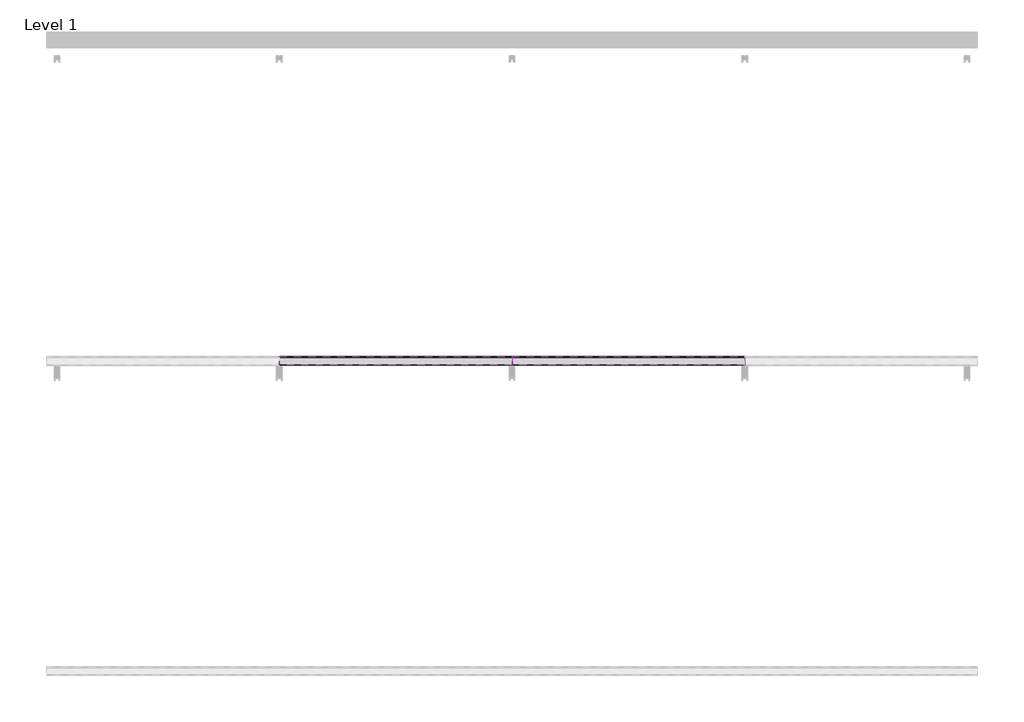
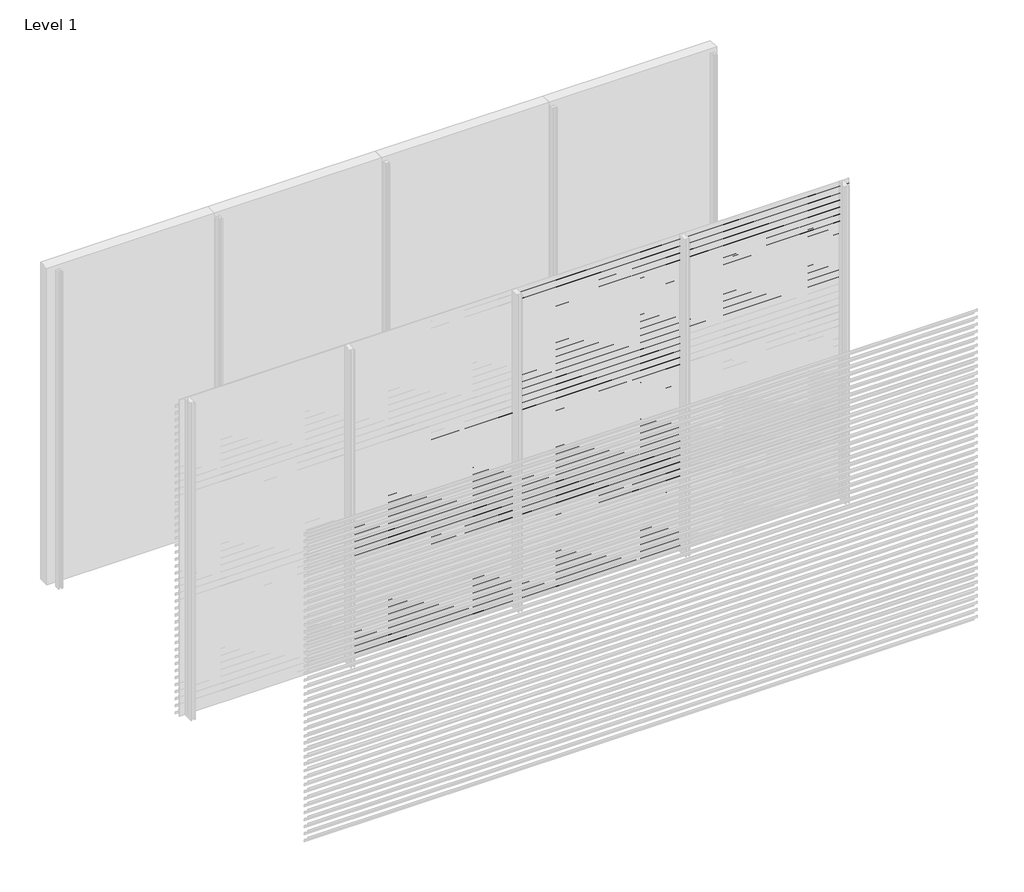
# One storey, part 17 of 25: 87 proxies.
"""IFC4 building model written with IfcOpenShell, lengths in millimetres."""

from ifc_helpers import new_model, si_unit, frame, origin, place, context, project, spatial, polyline, outline, extrude, element, save

model = new_model("IFC4")

# Units and contexts
model_context = context("Model", 3, world=origin())
ifc_project = project(units=[si_unit("LENGTHUNIT", "METRE", prefix="MILLI")], contexts=[model_context])

# Site, building, storey
site = spatial("IfcSite", under=ifc_project)
building = spatial("IfcBuilding", under=site)
storey = spatial("IfcBuildingStorey", under=building, Name="Level 1", Elevation=0.0)

# Proxies
placement = place(None, origin())
element("IfcBuildingElementProxy", 1, Name="Wall Sweeps", at=placement, inside=storey, context=model_context, shape_type="SweptSolid", body=[
    extrude(outline(polyline([(-17943.0, 1791.5), (-17943.0, 1771.5), (-17944.25, 1772.2216933), (-17944.25, 1790.7872415), (-17998.0, 1828.3158044), (-17998.0, 1848.0), (-17996.75, 1848.0), (-17996.75, 1829.0285629), (-17943.0, 1791.5)])), frame((1500.0, 0.0, 0.0), z_axis=(1.0, 0.0, 0.0), x_axis=(0.0, 1.0, 0.0)), (0.0, 0.0, 1.0), 1500.0),
])
element("IfcBuildingElementProxy", 2, Name="Wall Sweeps", at=placement, inside=storey, context=model_context, shape_type="SweptSolid", body=[
    extrude(outline(polyline([(-17943.0, 1725.5), (-17943.0, 1705.5), (-17944.25, 1706.2216933), (-17944.25, 1724.7872415), (-17998.0, 1762.3158044), (-17998.0, 1782.0), (-17996.75, 1782.0), (-17996.75, 1763.0285629), (-17943.0, 1725.5)])), frame((1500.0, 0.0, 0.0), z_axis=(1.0, 0.0, 0.0), x_axis=(0.0, 1.0, 0.0)), (0.0, 0.0, 1.0), 1500.0),
])
element("IfcBuildingElementProxy", 3, Name="Wall Sweeps", at=placement, inside=storey, context=model_context, shape_type="SweptSolid", body=[
    extrude(outline(polyline([(-17943.0, 1659.5), (-17943.0, 1639.5), (-17944.25, 1640.2216933), (-17944.25, 1658.7872415), (-17998.0, 1696.3158044), (-17998.0, 1716.0), (-17996.75, 1716.0), (-17996.75, 1697.0285629), (-17943.0, 1659.5)])), frame((1500.0, 0.0, 0.0), z_axis=(1.0, 0.0, 0.0), x_axis=(0.0, 1.0, 0.0)), (0.0, 0.0, 1.0), 1500.0),
])
element("IfcBuildingElementProxy", 4, Name="Wall Sweeps", at=placement, inside=storey, context=model_context, shape_type="SweptSolid", body=[
    extrude(outline(polyline([(-17943.0, 1593.5), (-17943.0, 1573.5), (-17944.25, 1574.2216933), (-17944.25, 1592.7872415), (-17998.0, 1630.3158044), (-17998.0, 1650.0), (-17996.75, 1650.0), (-17996.75, 1631.0285629), (-17943.0, 1593.5)])), frame((1500.0, 0.0, 0.0), z_axis=(1.0, 0.0, 0.0), x_axis=(0.0, 1.0, 0.0)), (0.0, 0.0, 1.0), 1500.0),
])
element("IfcBuildingElementProxy", 5, Name="Wall Sweeps", at=placement, inside=storey, context=model_context, shape_type="SweptSolid", body=[
    extrude(outline(polyline([(-17943.0, 1527.5), (-17943.0, 1507.5), (-17944.25, 1508.2216933), (-17944.25, 1526.7872415), (-17998.0, 1564.3158044), (-17998.0, 1584.0), (-17996.75, 1584.0), (-17996.75, 1565.0285629), (-17943.0, 1527.5)])), frame((1500.0, 0.0, 0.0), z_axis=(1.0, 0.0, 0.0), x_axis=(0.0, 1.0, 0.0)), (0.0, 0.0, 1.0), 1500.0),
])
element("IfcBuildingElementProxy", 6, Name="Wall Sweeps", at=placement, inside=storey, context=model_context, shape_type="SweptSolid", body=[
    extrude(outline(polyline([(-17943.0, 1461.5), (-17943.0, 1441.5), (-17944.25, 1442.2216933), (-17944.25, 1460.7872415), (-17998.0, 1498.3158044), (-17998.0, 1518.0), (-17996.75, 1518.0), (-17996.75, 1499.0285629), (-17943.0, 1461.5)])), frame((1500.0, 0.0, 0.0), z_axis=(1.0, 0.0, 0.0), x_axis=(0.0, 1.0, 0.0)), (0.0, 0.0, 1.0), 1500.0),
])
element("IfcBuildingElementProxy", 7, Name="Wall Sweeps", at=placement, inside=storey, context=model_context, shape_type="SweptSolid", body=[
    extrude(outline(polyline([(-17943.0, 1395.5), (-17943.0, 1375.5), (-17944.25, 1376.2216933), (-17944.25, 1394.7872415), (-17998.0, 1432.3158044), (-17998.0, 1452.0), (-17996.75, 1452.0), (-17996.75, 1433.0285629), (-17943.0, 1395.5)])), frame((1500.0, 0.0, 0.0), z_axis=(1.0, 0.0, 0.0), x_axis=(0.0, 1.0, 0.0)), (0.0, 0.0, 1.0), 1500.0),
])
element("IfcBuildingElementProxy", 8, Name="Wall Sweeps", at=placement, inside=storey, context=model_context, shape_type="SweptSolid", body=[
    extrude(outline(polyline([(-17943.0, 1329.5), (-17943.0, 1309.5), (-17944.25, 1310.2216933), (-17944.25, 1328.7872415), (-17998.0, 1366.3158044), (-17998.0, 1386.0), (-17996.75, 1386.0), (-17996.75, 1367.0285629), (-17943.0, 1329.5)])), frame((1500.0, 0.0, 0.0), z_axis=(1.0, 0.0, 0.0), x_axis=(0.0, 1.0, 0.0)), (0.0, 0.0, 1.0), 1500.0),
])
element("IfcBuildingElementProxy", 9, Name="Wall Sweeps", at=placement, inside=storey, context=model_context, shape_type="SweptSolid", body=[
    extrude(outline(polyline([(-17943.0, 1263.5), (-17943.0, 1243.5), (-17944.25, 1244.2216933), (-17944.25, 1262.7872415), (-17998.0, 1300.3158044), (-17998.0, 1320.0), (-17996.75, 1320.0), (-17996.75, 1301.0285629), (-17943.0, 1263.5)])), frame((1500.0, 0.0, 0.0), z_axis=(1.0, 0.0, 0.0), x_axis=(0.0, 1.0, 0.0)), (0.0, 0.0, 1.0), 1500.0),
])
element("IfcBuildingElementProxy", 10, Name="Wall Sweeps", at=placement, inside=storey, context=model_context, shape_type="SweptSolid", body=[
    extrude(outline(polyline([(-17943.0, 1197.5), (-17943.0, 1177.5), (-17944.25, 1178.2216933), (-17944.25, 1196.7872415), (-17998.0, 1234.3158044), (-17998.0, 1254.0), (-17996.75, 1254.0), (-17996.75, 1235.0285629), (-17943.0, 1197.5)])), frame((1500.0, 0.0, 0.0), z_axis=(1.0, 0.0, 0.0), x_axis=(0.0, 1.0, 0.0)), (0.0, 0.0, 1.0), 1500.0),
])
element("IfcBuildingElementProxy", 11, Name="Wall Sweeps", at=placement, inside=storey, context=model_context, shape_type="SweptSolid", body=[
    extrude(outline(polyline([(-17943.0, 1131.5), (-17943.0, 1111.5), (-17944.25, 1112.2216933), (-17944.25, 1130.7872415), (-17998.0, 1168.3158044), (-17998.0, 1188.0), (-17996.75, 1188.0), (-17996.75, 1169.0285629), (-17943.0, 1131.5)])), frame((1500.0, 0.0, 0.0), z_axis=(1.0, 0.0, 0.0), x_axis=(0.0, 1.0, 0.0)), (0.0, 0.0, 1.0), 1500.0),
])
element("IfcBuildingElementProxy", 12, Name="Wall Sweeps", at=placement, inside=storey, context=model_context, shape_type="SweptSolid", body=[
    extrude(outline(polyline([(-17943.0, 1065.5), (-17943.0, 1045.5), (-17944.25, 1046.2216933), (-17944.25, 1064.7872415), (-17998.0, 1102.3158044), (-17998.0, 1122.0), (-17996.75, 1122.0), (-17996.75, 1103.0285629), (-17943.0, 1065.5)])), frame((1500.0, 0.0, 0.0), z_axis=(1.0, 0.0, 0.0), x_axis=(0.0, 1.0, 0.0)), (0.0, 0.0, 1.0), 1500.0),
])
element("IfcBuildingElementProxy", 13, Name="Wall Sweeps", at=placement, inside=storey, context=model_context, shape_type="SweptSolid", body=[
    extrude(outline(polyline([(-17943.0, 999.5), (-17943.0, 979.5), (-17944.25, 980.2216933), (-17944.25, 998.7872415), (-17998.0, 1036.3158044), (-17998.0, 1056.0), (-17996.75, 1056.0), (-17996.75, 1037.0285629), (-17943.0, 999.5)])), frame((1500.0, 0.0, 0.0), z_axis=(1.0, 0.0, 0.0), x_axis=(0.0, 1.0, 0.0)), (0.0, 0.0, 1.0), 1500.0),
])
element("IfcBuildingElementProxy", 14, Name="Wall Sweeps", at=placement, inside=storey, context=model_context, shape_type="SweptSolid", body=[
    extrude(outline(polyline([(-17943.0, 933.5), (-17943.0, 913.5), (-17944.25, 914.2216933), (-17944.25, 932.7872415), (-17998.0, 970.3158044), (-17998.0, 990.0), (-17996.75, 990.0), (-17996.75, 971.0285629), (-17943.0, 933.5)])), frame((1500.0, 0.0, 0.0), z_axis=(1.0, 0.0, 0.0), x_axis=(0.0, 1.0, 0.0)), (0.0, 0.0, 1.0), 1500.0),
])
element("IfcBuildingElementProxy", 15, Name="Wall Sweeps", at=placement, inside=storey, context=model_context, shape_type="SweptSolid", body=[
    extrude(outline(polyline([(-17943.0, 867.5), (-17943.0, 847.5), (-17944.25, 848.2216933), (-17944.25, 866.7872415), (-17998.0, 904.3158044), (-17998.0, 924.0), (-17996.75, 924.0), (-17996.75, 905.0285629), (-17943.0, 867.5)])), frame((1500.0, 0.0, 0.0), z_axis=(1.0, 0.0, 0.0), x_axis=(0.0, 1.0, 0.0)), (0.0, 0.0, 1.0), 1500.0),
])
element("IfcBuildingElementProxy", 16, Name="Wall Sweeps", at=placement, inside=storey, context=model_context, shape_type="SweptSolid", body=[
    extrude(outline(polyline([(-17943.0, 801.5), (-17943.0, 781.5), (-17944.25, 782.2216933), (-17944.25, 800.7872415), (-17998.0, 838.3158044), (-17998.0, 858.0), (-17996.75, 858.0), (-17996.75, 839.0285629), (-17943.0, 801.5)])), frame((1500.0, 0.0, 0.0), z_axis=(1.0, 0.0, 0.0), x_axis=(0.0, 1.0, 0.0)), (0.0, 0.0, 1.0), 1500.0),
])
element("IfcBuildingElementProxy", 17, Name="Wall Sweeps", at=placement, inside=storey, context=model_context, shape_type="SweptSolid", body=[
    extrude(outline(polyline([(-17943.0, 735.5), (-17943.0, 715.5), (-17944.25, 716.2216933), (-17944.25, 734.7872415), (-17998.0, 772.3158044), (-17998.0, 792.0), (-17996.75, 792.0), (-17996.75, 773.0285629), (-17943.0, 735.5)])), frame((1500.0, 0.0, 0.0), z_axis=(1.0, 0.0, 0.0), x_axis=(0.0, 1.0, 0.0)), (0.0, 0.0, 1.0), 1500.0),
])
element("IfcBuildingElementProxy", 18, Name="Wall Sweeps", at=placement, inside=storey, context=model_context, shape_type="SweptSolid", body=[
    extrude(outline(polyline([(-17943.0, 669.5), (-17943.0, 649.5), (-17944.25, 650.2216933), (-17944.25, 668.7872415), (-17998.0, 706.3158044), (-17998.0, 726.0), (-17996.75, 726.0), (-17996.75, 707.0285629), (-17943.0, 669.5)])), frame((1500.0, 0.0, 0.0), z_axis=(1.0, 0.0, 0.0), x_axis=(0.0, 1.0, 0.0)), (0.0, 0.0, 1.0), 1500.0),
])
element("IfcBuildingElementProxy", 19, Name="Wall Sweeps", at=placement, inside=storey, context=model_context, shape_type="SweptSolid", body=[
    extrude(outline(polyline([(-17943.0, 603.5), (-17943.0, 583.5), (-17944.25, 584.2216933), (-17944.25, 602.7872415), (-17998.0, 640.3158044), (-17998.0, 660.0), (-17996.75, 660.0), (-17996.75, 641.0285629), (-17943.0, 603.5)])), frame((1500.0, 0.0, 0.0), z_axis=(1.0, 0.0, 0.0), x_axis=(0.0, 1.0, 0.0)), (0.0, 0.0, 1.0), 1500.0),
])
element("IfcBuildingElementProxy", 20, Name="Wall Sweeps", at=placement, inside=storey, context=model_context, shape_type="SweptSolid", body=[
    extrude(outline(polyline([(-17943.0, 537.5), (-17943.0, 517.5), (-17944.25, 518.2216933), (-17944.25, 536.7872415), (-17998.0, 574.3158044), (-17998.0, 594.0), (-17996.75, 594.0), (-17996.75, 575.0285629), (-17943.0, 537.5)])), frame((1500.0, 0.0, 0.0), z_axis=(1.0, 0.0, 0.0), x_axis=(0.0, 1.0, 0.0)), (0.0, 0.0, 1.0), 1500.0),
])
element("IfcBuildingElementProxy", 21, Name="Wall Sweeps", at=placement, inside=storey, context=model_context, shape_type="SweptSolid", body=[
    extrude(outline(polyline([(-17943.0, 471.5), (-17943.0, 451.5), (-17944.25, 452.2216933), (-17944.25, 470.7872415), (-17998.0, 508.3158044), (-17998.0, 528.0), (-17996.75, 528.0), (-17996.75, 509.0285629), (-17943.0, 471.5)])), frame((1500.0, 0.0, 0.0), z_axis=(1.0, 0.0, 0.0), x_axis=(0.0, 1.0, 0.0)), (0.0, 0.0, 1.0), 1500.0),
])
element("IfcBuildingElementProxy", 22, Name="Wall Sweeps", at=placement, inside=storey, context=model_context, shape_type="SweptSolid", body=[
    extrude(outline(polyline([(-17943.0, 405.5), (-17943.0, 385.5), (-17944.25, 386.2216933), (-17944.25, 404.7872415), (-17998.0, 442.3158044), (-17998.0, 462.0), (-17996.75, 462.0), (-17996.75, 443.0285629), (-17943.0, 405.5)])), frame((1500.0, 0.0, 0.0), z_axis=(1.0, 0.0, 0.0), x_axis=(0.0, 1.0, 0.0)), (0.0, 0.0, 1.0), 1500.0),
])
element("IfcBuildingElementProxy", 23, Name="Wall Sweeps", at=placement, inside=storey, context=model_context, shape_type="SweptSolid", body=[
    extrude(outline(polyline([(-17943.0, 339.5), (-17943.0, 319.5), (-17944.25, 320.2216933), (-17944.25, 338.7872415), (-17998.0, 376.3158044), (-17998.0, 396.0), (-17996.75, 396.0), (-17996.75, 377.0285629), (-17943.0, 339.5)])), frame((1500.0, 0.0, 0.0), z_axis=(1.0, 0.0, 0.0), x_axis=(0.0, 1.0, 0.0)), (0.0, 0.0, 1.0), 1500.0),
])
element("IfcBuildingElementProxy", 24, Name="Wall Sweeps", at=placement, inside=storey, context=model_context, shape_type="SweptSolid", body=[
    extrude(outline(polyline([(-17943.0, 273.5), (-17943.0, 253.5), (-17944.25, 254.2216933), (-17944.25, 272.7872415), (-17998.0, 310.3158044), (-17998.0, 330.0), (-17996.75, 330.0), (-17996.75, 311.0285629), (-17943.0, 273.5)])), frame((1500.0, 0.0, 0.0), z_axis=(1.0, 0.0, 0.0), x_axis=(0.0, 1.0, 0.0)), (0.0, 0.0, 1.0), 1500.0),
])
element("IfcBuildingElementProxy", 25, Name="Wall Sweeps", at=placement, inside=storey, context=model_context, shape_type="SweptSolid", body=[
    extrude(outline(polyline([(-17943.0, 207.5), (-17943.0, 187.5), (-17944.25, 188.2216933), (-17944.25, 206.7872415), (-17998.0, 244.3158044), (-17998.0, 264.0), (-17996.75, 264.0), (-17996.75, 245.0285629), (-17943.0, 207.5)])), frame((1500.0, 0.0, 0.0), z_axis=(1.0, 0.0, 0.0), x_axis=(0.0, 1.0, 0.0)), (0.0, 0.0, 1.0), 1500.0),
])
element("IfcBuildingElementProxy", 26, Name="Wall Sweeps", at=placement, inside=storey, context=model_context, shape_type="SweptSolid", body=[
    extrude(outline(polyline([(-17943.0, 141.5), (-17943.0, 121.5), (-17944.25, 122.2216933), (-17944.25, 140.7872415), (-17998.0, 178.3158044), (-17998.0, 198.0), (-17996.75, 198.0), (-17996.75, 179.0285629), (-17943.0, 141.5)])), frame((1500.0, 0.0, 0.0), z_axis=(1.0, 0.0, 0.0), x_axis=(0.0, 1.0, 0.0)), (0.0, 0.0, 1.0), 1500.0),
])
element("IfcBuildingElementProxy", 27, Name="Wall Sweeps", at=placement, inside=storey, context=model_context, shape_type="SweptSolid", body=[
    extrude(outline(polyline([(-17943.0, 75.5), (-17943.0, 55.5), (-17944.25, 56.2216933), (-17944.25, 74.7872415), (-17998.0, 112.3158044), (-17998.0, 132.0), (-17996.75, 132.0), (-17996.75, 113.0285629), (-17943.0, 75.5)])), frame((1500.0, 0.0, 0.0), z_axis=(1.0, 0.0, 0.0), x_axis=(0.0, 1.0, 0.0)), (0.0, 0.0, 1.0), 1500.0),
])
element("IfcBuildingElementProxy", 28, Name="Wall Sweeps", at=placement, inside=storey, context=model_context, shape_type="SweptSolid", body=[
    extrude(outline(polyline([(-17943.0, 9.5), (-17943.0, -10.5), (-17944.25, -9.7783067), (-17944.25, 8.7872415), (-17998.0, 46.3158044), (-17998.0, 66.0), (-17996.75, 66.0), (-17996.75, 47.0285629), (-17943.0, 9.5)])), frame((1500.0, 0.0, 0.0), z_axis=(1.0, 0.0, 0.0), x_axis=(0.0, 1.0, 0.0)), (0.0, 0.0, 1.0), 1500.0),
])
element("IfcBuildingElementProxy", 29, Name="Wall Sweeps", at=placement, inside=storey, context=model_context, shape_type="SweptSolid", body=[
    extrude(outline(polyline([(-17943.0, 2913.5), (-17943.0, 2893.5), (-17944.25, 2894.2216933), (-17944.25, 2912.7872415), (-17998.0, 2950.3158044), (-17998.0, 2970.0), (-17996.75, 2970.0), (-17996.75, 2951.0285629), (-17943.0, 2913.5)])), frame((3000.0, 0.0, 0.0), z_axis=(1.0, 0.0, 0.0), x_axis=(0.0, 1.0, 0.0)), (0.0, 0.0, 1.0), 1500.0),
])
element("IfcBuildingElementProxy", 30, Name="Wall Sweeps", at=placement, inside=storey, context=model_context, shape_type="SweptSolid", body=[
    extrude(outline(polyline([(-17943.0, 2847.5), (-17943.0, 2827.5), (-17944.25, 2828.2216933), (-17944.25, 2846.7872415), (-17998.0, 2884.3158044), (-17998.0, 2904.0), (-17996.75, 2904.0), (-17996.75, 2885.0285629), (-17943.0, 2847.5)])), frame((3000.0, 0.0, 0.0), z_axis=(1.0, 0.0, 0.0), x_axis=(0.0, 1.0, 0.0)), (0.0, 0.0, 1.0), 1500.0),
])
element("IfcBuildingElementProxy", 31, Name="Wall Sweeps", at=placement, inside=storey, context=model_context, shape_type="SweptSolid", body=[
    extrude(outline(polyline([(-17943.0, 2781.5), (-17943.0, 2761.5), (-17944.25, 2762.2216933), (-17944.25, 2780.7872415), (-17998.0, 2818.3158044), (-17998.0, 2838.0), (-17996.75, 2838.0), (-17996.75, 2819.0285629), (-17943.0, 2781.5)])), frame((3000.0, 0.0, 0.0), z_axis=(1.0, 0.0, 0.0), x_axis=(0.0, 1.0, 0.0)), (0.0, 0.0, 1.0), 1500.0),
])
element("IfcBuildingElementProxy", 32, Name="Wall Sweeps", at=placement, inside=storey, context=model_context, shape_type="SweptSolid", body=[
    extrude(outline(polyline([(-17943.0, 2715.5), (-17943.0, 2695.5), (-17944.25, 2696.2216933), (-17944.25, 2714.7872415), (-17998.0, 2752.3158044), (-17998.0, 2772.0), (-17996.75, 2772.0), (-17996.75, 2753.0285629), (-17943.0, 2715.5)])), frame((3000.0, 0.0, 0.0), z_axis=(1.0, 0.0, 0.0), x_axis=(0.0, 1.0, 0.0)), (0.0, 0.0, 1.0), 1500.0),
])
element("IfcBuildingElementProxy", 33, Name="Wall Sweeps", at=placement, inside=storey, context=model_context, shape_type="SweptSolid", body=[
    extrude(outline(polyline([(-17943.0, 2649.5), (-17943.0, 2629.5), (-17944.25, 2630.2216933), (-17944.25, 2648.7872415), (-17998.0, 2686.3158044), (-17998.0, 2706.0), (-17996.75, 2706.0), (-17996.75, 2687.0285629), (-17943.0, 2649.5)])), frame((3000.0, 0.0, 0.0), z_axis=(1.0, 0.0, 0.0), x_axis=(0.0, 1.0, 0.0)), (0.0, 0.0, 1.0), 1500.0),
])
element("IfcBuildingElementProxy", 34, Name="Wall Sweeps", at=placement, inside=storey, context=model_context, shape_type="SweptSolid", body=[
    extrude(outline(polyline([(-17943.0, 2583.5), (-17943.0, 2563.5), (-17944.25, 2564.2216933), (-17944.25, 2582.7872415), (-17998.0, 2620.3158044), (-17998.0, 2640.0), (-17996.75, 2640.0), (-17996.75, 2621.0285629), (-17943.0, 2583.5)])), frame((3000.0, 0.0, 0.0), z_axis=(1.0, 0.0, 0.0), x_axis=(0.0, 1.0, 0.0)), (0.0, 0.0, 1.0), 1500.0),
])
element("IfcBuildingElementProxy", 35, Name="Wall Sweeps", at=placement, inside=storey, context=model_context, shape_type="SweptSolid", body=[
    extrude(outline(polyline([(-17943.0, 2517.5), (-17943.0, 2497.5), (-17944.25, 2498.2216933), (-17944.25, 2516.7872415), (-17998.0, 2554.3158044), (-17998.0, 2574.0), (-17996.75, 2574.0), (-17996.75, 2555.0285629), (-17943.0, 2517.5)])), frame((3000.0, 0.0, 0.0), z_axis=(1.0, 0.0, 0.0), x_axis=(0.0, 1.0, 0.0)), (0.0, 0.0, 1.0), 1500.0),
])
element("IfcBuildingElementProxy", 36, Name="Wall Sweeps", at=placement, inside=storey, context=model_context, shape_type="SweptSolid", body=[
    extrude(outline(polyline([(-17943.0, 2451.5), (-17943.0, 2431.5), (-17944.25, 2432.2216933), (-17944.25, 2450.7872415), (-17998.0, 2488.3158044), (-17998.0, 2508.0), (-17996.75, 2508.0), (-17996.75, 2489.0285629), (-17943.0, 2451.5)])), frame((3000.0, 0.0, 0.0), z_axis=(1.0, 0.0, 0.0), x_axis=(0.0, 1.0, 0.0)), (0.0, 0.0, 1.0), 1500.0),
])
element("IfcBuildingElementProxy", 37, Name="Wall Sweeps", at=placement, inside=storey, context=model_context, shape_type="SweptSolid", body=[
    extrude(outline(polyline([(-17943.0, 2385.5), (-17943.0, 2365.5), (-17944.25, 2366.2216933), (-17944.25, 2384.7872415), (-17998.0, 2422.3158044), (-17998.0, 2442.0), (-17996.75, 2442.0), (-17996.75, 2423.0285629), (-17943.0, 2385.5)])), frame((3000.0, 0.0, 0.0), z_axis=(1.0, 0.0, 0.0), x_axis=(0.0, 1.0, 0.0)), (0.0, 0.0, 1.0), 1500.0),
])
element("IfcBuildingElementProxy", 38, Name="Wall Sweeps", at=placement, inside=storey, context=model_context, shape_type="SweptSolid", body=[
    extrude(outline(polyline([(-17943.0, 2319.5), (-17943.0, 2299.5), (-17944.25, 2300.2216933), (-17944.25, 2318.7872415), (-17998.0, 2356.3158044), (-17998.0, 2376.0), (-17996.75, 2376.0), (-17996.75, 2357.0285629), (-17943.0, 2319.5)])), frame((3000.0, 0.0, 0.0), z_axis=(1.0, 0.0, 0.0), x_axis=(0.0, 1.0, 0.0)), (0.0, 0.0, 1.0), 1500.0),
])
element("IfcBuildingElementProxy", 39, Name="Wall Sweeps", at=placement, inside=storey, context=model_context, shape_type="SweptSolid", body=[
    extrude(outline(polyline([(-17943.0, 2253.5), (-17943.0, 2233.5), (-17944.25, 2234.2216933), (-17944.25, 2252.7872415), (-17998.0, 2290.3158044), (-17998.0, 2310.0), (-17996.75, 2310.0), (-17996.75, 2291.0285629), (-17943.0, 2253.5)])), frame((3000.0, 0.0, 0.0), z_axis=(1.0, 0.0, 0.0), x_axis=(0.0, 1.0, 0.0)), (0.0, 0.0, 1.0), 1500.0),
])
element("IfcBuildingElementProxy", 40, Name="Wall Sweeps", at=placement, inside=storey, context=model_context, shape_type="SweptSolid", body=[
    extrude(outline(polyline([(-17943.0, 2187.5), (-17943.0, 2167.5), (-17944.25, 2168.2216933), (-17944.25, 2186.7872415), (-17998.0, 2224.3158044), (-17998.0, 2244.0), (-17996.75, 2244.0), (-17996.75, 2225.0285629), (-17943.0, 2187.5)])), frame((3000.0, 0.0, 0.0), z_axis=(1.0, 0.0, 0.0), x_axis=(0.0, 1.0, 0.0)), (0.0, 0.0, 1.0), 1500.0),
])
element("IfcBuildingElementProxy", 41, Name="Wall Sweeps", at=placement, inside=storey, context=model_context, shape_type="SweptSolid", body=[
    extrude(outline(polyline([(-17943.0, 2121.5), (-17943.0, 2101.5), (-17944.25, 2102.2216933), (-17944.25, 2120.7872415), (-17998.0, 2158.3158044), (-17998.0, 2178.0), (-17996.75, 2178.0), (-17996.75, 2159.0285629), (-17943.0, 2121.5)])), frame((3000.0, 0.0, 0.0), z_axis=(1.0, 0.0, 0.0), x_axis=(0.0, 1.0, 0.0)), (0.0, 0.0, 1.0), 1500.0),
])
element("IfcBuildingElementProxy", 42, Name="Wall Sweeps", at=placement, inside=storey, context=model_context, shape_type="SweptSolid", body=[
    extrude(outline(polyline([(-17943.0, 2055.5), (-17943.0, 2035.5), (-17944.25, 2036.2216933), (-17944.25, 2054.7872415), (-17998.0, 2092.3158044), (-17998.0, 2112.0), (-17996.75, 2112.0), (-17996.75, 2093.0285629), (-17943.0, 2055.5)])), frame((3000.0, 0.0, 0.0), z_axis=(1.0, 0.0, 0.0), x_axis=(0.0, 1.0, 0.0)), (0.0, 0.0, 1.0), 1500.0),
])
element("IfcBuildingElementProxy", 43, Name="Wall Sweeps", at=placement, inside=storey, context=model_context, shape_type="SweptSolid", body=[
    extrude(outline(polyline([(-17943.0, 1989.5), (-17943.0, 1969.5), (-17944.25, 1970.2216933), (-17944.25, 1988.7872415), (-17998.0, 2026.3158044), (-17998.0, 2046.0), (-17996.75, 2046.0), (-17996.75, 2027.0285629), (-17943.0, 1989.5)])), frame((3000.0, 0.0, 0.0), z_axis=(1.0, 0.0, 0.0), x_axis=(0.0, 1.0, 0.0)), (0.0, 0.0, 1.0), 1500.0),
])
element("IfcBuildingElementProxy", 44, Name="Wall Sweeps", at=placement, inside=storey, context=model_context, shape_type="SweptSolid", body=[
    extrude(outline(polyline([(-17943.0, 1923.5), (-17943.0, 1903.5), (-17944.25, 1904.2216933), (-17944.25, 1922.7872415), (-17998.0, 1960.3158044), (-17998.0, 1980.0), (-17996.75, 1980.0), (-17996.75, 1961.0285629), (-17943.0, 1923.5)])), frame((3000.0, 0.0, 0.0), z_axis=(1.0, 0.0, 0.0), x_axis=(0.0, 1.0, 0.0)), (0.0, 0.0, 1.0), 1500.0),
])
element("IfcBuildingElementProxy", 45, Name="Wall Sweeps", at=placement, inside=storey, context=model_context, shape_type="SweptSolid", body=[
    extrude(outline(polyline([(-17943.0, 1857.5), (-17943.0, 1837.5), (-17944.25, 1838.2216933), (-17944.25, 1856.7872415), (-17998.0, 1894.3158044), (-17998.0, 1914.0), (-17996.75, 1914.0), (-17996.75, 1895.0285629), (-17943.0, 1857.5)])), frame((3000.0, 0.0, 0.0), z_axis=(1.0, 0.0, 0.0), x_axis=(0.0, 1.0, 0.0)), (0.0, 0.0, 1.0), 1500.0),
])
element("IfcBuildingElementProxy", 46, Name="Wall Sweeps", at=placement, inside=storey, context=model_context, shape_type="SweptSolid", body=[
    extrude(outline(polyline([(-17943.0, 1791.5), (-17943.0, 1771.5), (-17944.25, 1772.2216933), (-17944.25, 1790.7872415), (-17998.0, 1828.3158044), (-17998.0, 1848.0), (-17996.75, 1848.0), (-17996.75, 1829.0285629), (-17943.0, 1791.5)])), frame((3000.0, 0.0, 0.0), z_axis=(1.0, 0.0, 0.0), x_axis=(0.0, 1.0, 0.0)), (0.0, 0.0, 1.0), 1500.0),
])
element("IfcBuildingElementProxy", 47, Name="Wall Sweeps", at=placement, inside=storey, context=model_context, shape_type="SweptSolid", body=[
    extrude(outline(polyline([(-17943.0, 1725.5), (-17943.0, 1705.5), (-17944.25, 1706.2216933), (-17944.25, 1724.7872415), (-17998.0, 1762.3158044), (-17998.0, 1782.0), (-17996.75, 1782.0), (-17996.75, 1763.0285629), (-17943.0, 1725.5)])), frame((3000.0, 0.0, 0.0), z_axis=(1.0, 0.0, 0.0), x_axis=(0.0, 1.0, 0.0)), (0.0, 0.0, 1.0), 1500.0),
])
element("IfcBuildingElementProxy", 48, Name="Wall Sweeps", at=placement, inside=storey, context=model_context, shape_type="SweptSolid", body=[
    extrude(outline(polyline([(-17943.0, 1659.5), (-17943.0, 1639.5), (-17944.25, 1640.2216933), (-17944.25, 1658.7872415), (-17998.0, 1696.3158044), (-17998.0, 1716.0), (-17996.75, 1716.0), (-17996.75, 1697.0285629), (-17943.0, 1659.5)])), frame((3000.0, 0.0, 0.0), z_axis=(1.0, 0.0, 0.0), x_axis=(0.0, 1.0, 0.0)), (0.0, 0.0, 1.0), 1500.0),
])
element("IfcBuildingElementProxy", 49, Name="Wall Sweeps", at=placement, inside=storey, context=model_context, shape_type="SweptSolid", body=[
    extrude(outline(polyline([(-17943.0, 1593.5), (-17943.0, 1573.5), (-17944.25, 1574.2216933), (-17944.25, 1592.7872415), (-17998.0, 1630.3158044), (-17998.0, 1650.0), (-17996.75, 1650.0), (-17996.75, 1631.0285629), (-17943.0, 1593.5)])), frame((3000.0, 0.0, 0.0), z_axis=(1.0, 0.0, 0.0), x_axis=(0.0, 1.0, 0.0)), (0.0, 0.0, 1.0), 1500.0),
])
element("IfcBuildingElementProxy", 50, Name="Wall Sweeps", at=placement, inside=storey, context=model_context, shape_type="SweptSolid", body=[
    extrude(outline(polyline([(-17943.0, 1527.5), (-17943.0, 1507.5), (-17944.25, 1508.2216933), (-17944.25, 1526.7872415), (-17998.0, 1564.3158044), (-17998.0, 1584.0), (-17996.75, 1584.0), (-17996.75, 1565.0285629), (-17943.0, 1527.5)])), frame((3000.0, 0.0, 0.0), z_axis=(1.0, 0.0, 0.0), x_axis=(0.0, 1.0, 0.0)), (0.0, 0.0, 1.0), 1500.0),
])
element("IfcBuildingElementProxy", 51, Name="Wall Sweeps", at=placement, inside=storey, context=model_context, shape_type="SweptSolid", body=[
    extrude(outline(polyline([(-17943.0, 1461.5), (-17943.0, 1441.5), (-17944.25, 1442.2216933), (-17944.25, 1460.7872415), (-17998.0, 1498.3158044), (-17998.0, 1518.0), (-17996.75, 1518.0), (-17996.75, 1499.0285629), (-17943.0, 1461.5)])), frame((3000.0, 0.0, 0.0), z_axis=(1.0, 0.0, 0.0), x_axis=(0.0, 1.0, 0.0)), (0.0, 0.0, 1.0), 1500.0),
])
element("IfcBuildingElementProxy", 52, Name="Wall Sweeps", at=placement, inside=storey, context=model_context, shape_type="SweptSolid", body=[
    extrude(outline(polyline([(-17943.0, 1395.5), (-17943.0, 1375.5), (-17944.25, 1376.2216933), (-17944.25, 1394.7872415), (-17998.0, 1432.3158044), (-17998.0, 1452.0), (-17996.75, 1452.0), (-17996.75, 1433.0285629), (-17943.0, 1395.5)])), frame((3000.0, 0.0, 0.0), z_axis=(1.0, 0.0, 0.0), x_axis=(0.0, 1.0, 0.0)), (0.0, 0.0, 1.0), 1500.0),
])
element("IfcBuildingElementProxy", 53, Name="Wall Sweeps", at=placement, inside=storey, context=model_context, shape_type="SweptSolid", body=[
    extrude(outline(polyline([(-17943.0, 1329.5), (-17943.0, 1309.5), (-17944.25, 1310.2216933), (-17944.25, 1328.7872415), (-17998.0, 1366.3158044), (-17998.0, 1386.0), (-17996.75, 1386.0), (-17996.75, 1367.0285629), (-17943.0, 1329.5)])), frame((3000.0, 0.0, 0.0), z_axis=(1.0, 0.0, 0.0), x_axis=(0.0, 1.0, 0.0)), (0.0, 0.0, 1.0), 1500.0),
])
element("IfcBuildingElementProxy", 54, Name="Wall Sweeps", at=placement, inside=storey, context=model_context, shape_type="SweptSolid", body=[
    extrude(outline(polyline([(-17943.0, 1263.5), (-17943.0, 1243.5), (-17944.25, 1244.2216933), (-17944.25, 1262.7872415), (-17998.0, 1300.3158044), (-17998.0, 1320.0), (-17996.75, 1320.0), (-17996.75, 1301.0285629), (-17943.0, 1263.5)])), frame((3000.0, 0.0, 0.0), z_axis=(1.0, 0.0, 0.0), x_axis=(0.0, 1.0, 0.0)), (0.0, 0.0, 1.0), 1500.0),
])
element("IfcBuildingElementProxy", 55, Name="Wall Sweeps", at=placement, inside=storey, context=model_context, shape_type="SweptSolid", body=[
    extrude(outline(polyline([(-17943.0, 1197.5), (-17943.0, 1177.5), (-17944.25, 1178.2216933), (-17944.25, 1196.7872415), (-17998.0, 1234.3158044), (-17998.0, 1254.0), (-17996.75, 1254.0), (-17996.75, 1235.0285629), (-17943.0, 1197.5)])), frame((3000.0, 0.0, 0.0), z_axis=(1.0, 0.0, 0.0), x_axis=(0.0, 1.0, 0.0)), (0.0, 0.0, 1.0), 1500.0),
])
element("IfcBuildingElementProxy", 56, Name="Wall Sweeps", at=placement, inside=storey, context=model_context, shape_type="SweptSolid", body=[
    extrude(outline(polyline([(-17943.0, 1131.5), (-17943.0, 1111.5), (-17944.25, 1112.2216933), (-17944.25, 1130.7872415), (-17998.0, 1168.3158044), (-17998.0, 1188.0), (-17996.75, 1188.0), (-17996.75, 1169.0285629), (-17943.0, 1131.5)])), frame((3000.0, 0.0, 0.0), z_axis=(1.0, 0.0, 0.0), x_axis=(0.0, 1.0, 0.0)), (0.0, 0.0, 1.0), 1500.0),
])
element("IfcBuildingElementProxy", 57, Name="Wall Sweeps", at=placement, inside=storey, context=model_context, shape_type="SweptSolid", body=[
    extrude(outline(polyline([(-17943.0, 1065.5), (-17943.0, 1045.5), (-17944.25, 1046.2216933), (-17944.25, 1064.7872415), (-17998.0, 1102.3158044), (-17998.0, 1122.0), (-17996.75, 1122.0), (-17996.75, 1103.0285629), (-17943.0, 1065.5)])), frame((3000.0, 0.0, 0.0), z_axis=(1.0, 0.0, 0.0), x_axis=(0.0, 1.0, 0.0)), (0.0, 0.0, 1.0), 1500.0),
])
element("IfcBuildingElementProxy", 58, Name="Wall Sweeps", at=placement, inside=storey, context=model_context, shape_type="SweptSolid", body=[
    extrude(outline(polyline([(-17943.0, 999.5), (-17943.0, 979.5), (-17944.25, 980.2216933), (-17944.25, 998.7872415), (-17998.0, 1036.3158044), (-17998.0, 1056.0), (-17996.75, 1056.0), (-17996.75, 1037.0285629), (-17943.0, 999.5)])), frame((3000.0, 0.0, 0.0), z_axis=(1.0, 0.0, 0.0), x_axis=(0.0, 1.0, 0.0)), (0.0, 0.0, 1.0), 1500.0),
])
element("IfcBuildingElementProxy", 59, Name="Wall Sweeps", at=placement, inside=storey, context=model_context, shape_type="SweptSolid", body=[
    extrude(outline(polyline([(-17943.0, 933.5), (-17943.0, 913.5), (-17944.25, 914.2216933), (-17944.25, 932.7872415), (-17998.0, 970.3158044), (-17998.0, 990.0), (-17996.75, 990.0), (-17996.75, 971.0285629), (-17943.0, 933.5)])), frame((3000.0, 0.0, 0.0), z_axis=(1.0, 0.0, 0.0), x_axis=(0.0, 1.0, 0.0)), (0.0, 0.0, 1.0), 1500.0),
])
element("IfcBuildingElementProxy", 60, Name="Wall Sweeps", at=placement, inside=storey, context=model_context, shape_type="SweptSolid", body=[
    extrude(outline(polyline([(-17943.0, 867.5), (-17943.0, 847.5), (-17944.25, 848.2216933), (-17944.25, 866.7872415), (-17998.0, 904.3158044), (-17998.0, 924.0), (-17996.75, 924.0), (-17996.75, 905.0285629), (-17943.0, 867.5)])), frame((3000.0, 0.0, 0.0), z_axis=(1.0, 0.0, 0.0), x_axis=(0.0, 1.0, 0.0)), (0.0, 0.0, 1.0), 1500.0),
])
element("IfcBuildingElementProxy", 61, Name="Wall Sweeps", at=placement, inside=storey, context=model_context, shape_type="SweptSolid", body=[
    extrude(outline(polyline([(-17943.0, 801.5), (-17943.0, 781.5), (-17944.25, 782.2216933), (-17944.25, 800.7872415), (-17998.0, 838.3158044), (-17998.0, 858.0), (-17996.75, 858.0), (-17996.75, 839.0285629), (-17943.0, 801.5)])), frame((3000.0, 0.0, 0.0), z_axis=(1.0, 0.0, 0.0), x_axis=(0.0, 1.0, 0.0)), (0.0, 0.0, 1.0), 1500.0),
])
element("IfcBuildingElementProxy", 62, Name="Wall Sweeps", at=placement, inside=storey, context=model_context, shape_type="SweptSolid", body=[
    extrude(outline(polyline([(-17943.0, 735.5), (-17943.0, 715.5), (-17944.25, 716.2216933), (-17944.25, 734.7872415), (-17998.0, 772.3158044), (-17998.0, 792.0), (-17996.75, 792.0), (-17996.75, 773.0285629), (-17943.0, 735.5)])), frame((3000.0, 0.0, 0.0), z_axis=(1.0, 0.0, 0.0), x_axis=(0.0, 1.0, 0.0)), (0.0, 0.0, 1.0), 1500.0),
])
element("IfcBuildingElementProxy", 63, Name="Wall Sweeps", at=placement, inside=storey, context=model_context, shape_type="SweptSolid", body=[
    extrude(outline(polyline([(-17943.0, 669.5), (-17943.0, 649.5), (-17944.25, 650.2216933), (-17944.25, 668.7872415), (-17998.0, 706.3158044), (-17998.0, 726.0), (-17996.75, 726.0), (-17996.75, 707.0285629), (-17943.0, 669.5)])), frame((3000.0, 0.0, 0.0), z_axis=(1.0, 0.0, 0.0), x_axis=(0.0, 1.0, 0.0)), (0.0, 0.0, 1.0), 1500.0),
])
element("IfcBuildingElementProxy", 64, Name="Wall Sweeps", at=placement, inside=storey, context=model_context, shape_type="SweptSolid", body=[
    extrude(outline(polyline([(-17943.0, 603.5), (-17943.0, 583.5), (-17944.25, 584.2216933), (-17944.25, 602.7872415), (-17998.0, 640.3158044), (-17998.0, 660.0), (-17996.75, 660.0), (-17996.75, 641.0285629), (-17943.0, 603.5)])), frame((3000.0, 0.0, 0.0), z_axis=(1.0, 0.0, 0.0), x_axis=(0.0, 1.0, 0.0)), (0.0, 0.0, 1.0), 1500.0),
])
element("IfcBuildingElementProxy", 65, Name="Wall Sweeps", at=placement, inside=storey, context=model_context, shape_type="SweptSolid", body=[
    extrude(outline(polyline([(-17943.0, 537.5), (-17943.0, 517.5), (-17944.25, 518.2216933), (-17944.25, 536.7872415), (-17998.0, 574.3158044), (-17998.0, 594.0), (-17996.75, 594.0), (-17996.75, 575.0285629), (-17943.0, 537.5)])), frame((3000.0, 0.0, 0.0), z_axis=(1.0, 0.0, 0.0), x_axis=(0.0, 1.0, 0.0)), (0.0, 0.0, 1.0), 1500.0),
])
element("IfcBuildingElementProxy", 66, Name="Wall Sweeps", at=placement, inside=storey, context=model_context, shape_type="SweptSolid", body=[
    extrude(outline(polyline([(-17943.0, 471.5), (-17943.0, 451.5), (-17944.25, 452.2216933), (-17944.25, 470.7872415), (-17998.0, 508.3158044), (-17998.0, 528.0), (-17996.75, 528.0), (-17996.75, 509.0285629), (-17943.0, 471.5)])), frame((3000.0, 0.0, 0.0), z_axis=(1.0, 0.0, 0.0), x_axis=(0.0, 1.0, 0.0)), (0.0, 0.0, 1.0), 1500.0),
])
element("IfcBuildingElementProxy", 67, Name="Wall Sweeps", at=placement, inside=storey, context=model_context, shape_type="SweptSolid", body=[
    extrude(outline(polyline([(-17943.0, 405.5), (-17943.0, 385.5), (-17944.25, 386.2216933), (-17944.25, 404.7872415), (-17998.0, 442.3158044), (-17998.0, 462.0), (-17996.75, 462.0), (-17996.75, 443.0285629), (-17943.0, 405.5)])), frame((3000.0, 0.0, 0.0), z_axis=(1.0, 0.0, 0.0), x_axis=(0.0, 1.0, 0.0)), (0.0, 0.0, 1.0), 1500.0),
])
element("IfcBuildingElementProxy", 68, Name="Wall Sweeps", at=placement, inside=storey, context=model_context, shape_type="SweptSolid", body=[
    extrude(outline(polyline([(-17943.0, 339.5), (-17943.0, 319.5), (-17944.25, 320.2216933), (-17944.25, 338.7872415), (-17998.0, 376.3158044), (-17998.0, 396.0), (-17996.75, 396.0), (-17996.75, 377.0285629), (-17943.0, 339.5)])), frame((3000.0, 0.0, 0.0), z_axis=(1.0, 0.0, 0.0), x_axis=(0.0, 1.0, 0.0)), (0.0, 0.0, 1.0), 1500.0),
])
element("IfcBuildingElementProxy", 69, Name="Wall Sweeps", at=placement, inside=storey, context=model_context, shape_type="SweptSolid", body=[
    extrude(outline(polyline([(-17943.0, 273.5), (-17943.0, 253.5), (-17944.25, 254.2216933), (-17944.25, 272.7872415), (-17998.0, 310.3158044), (-17998.0, 330.0), (-17996.75, 330.0), (-17996.75, 311.0285629), (-17943.0, 273.5)])), frame((3000.0, 0.0, 0.0), z_axis=(1.0, 0.0, 0.0), x_axis=(0.0, 1.0, 0.0)), (0.0, 0.0, 1.0), 1500.0),
])
element("IfcBuildingElementProxy", 70, Name="Wall Sweeps", at=placement, inside=storey, context=model_context, shape_type="SweptSolid", body=[
    extrude(outline(polyline([(-17943.0, 207.5), (-17943.0, 187.5), (-17944.25, 188.2216933), (-17944.25, 206.7872415), (-17998.0, 244.3158044), (-17998.0, 264.0), (-17996.75, 264.0), (-17996.75, 245.0285629), (-17943.0, 207.5)])), frame((3000.0, 0.0, 0.0), z_axis=(1.0, 0.0, 0.0), x_axis=(0.0, 1.0, 0.0)), (0.0, 0.0, 1.0), 1500.0),
])
element("IfcBuildingElementProxy", 71, Name="Wall Sweeps", at=placement, inside=storey, context=model_context, shape_type="SweptSolid", body=[
    extrude(outline(polyline([(-17943.0, 141.5), (-17943.0, 121.5), (-17944.25, 122.2216933), (-17944.25, 140.7872415), (-17998.0, 178.3158044), (-17998.0, 198.0), (-17996.75, 198.0), (-17996.75, 179.0285629), (-17943.0, 141.5)])), frame((3000.0, 0.0, 0.0), z_axis=(1.0, 0.0, 0.0), x_axis=(0.0, 1.0, 0.0)), (0.0, 0.0, 1.0), 1500.0),
])
element("IfcBuildingElementProxy", 72, Name="Wall Sweeps", at=placement, inside=storey, context=model_context, shape_type="SweptSolid", body=[
    extrude(outline(polyline([(-17943.0, 75.5), (-17943.0, 55.5), (-17944.25, 56.2216933), (-17944.25, 74.7872415), (-17998.0, 112.3158044), (-17998.0, 132.0), (-17996.75, 132.0), (-17996.75, 113.0285629), (-17943.0, 75.5)])), frame((3000.0, 0.0, 0.0), z_axis=(1.0, 0.0, 0.0), x_axis=(0.0, 1.0, 0.0)), (0.0, 0.0, 1.0), 1500.0),
])
element("IfcBuildingElementProxy", 73, Name="Wall Sweeps", at=placement, inside=storey, context=model_context, shape_type="SweptSolid", body=[
    extrude(outline(polyline([(-17943.0, 9.5), (-17943.0, -10.5), (-17944.25, -9.7783067), (-17944.25, 8.7872415), (-17998.0, 46.3158044), (-17998.0, 66.0), (-17996.75, 66.0), (-17996.75, 47.0285629), (-17943.0, 9.5)])), frame((3000.0, 0.0, 0.0), z_axis=(1.0, 0.0, 0.0), x_axis=(0.0, 1.0, 0.0)), (0.0, 0.0, 1.0), 1500.0),
])
element("IfcBuildingElementProxy", 74, Name="Wall Sweeps", at=placement, inside=storey, context=model_context, shape_type="SweptSolid", body=[
    extrude(outline(polyline([(-17943.0, 2913.5), (-17943.0, 2893.5), (-17944.25, 2894.2216933), (-17944.25, 2912.7872415), (-17998.0, 2950.3158044), (-17998.0, 2970.0), (-17996.75, 2970.0), (-17996.75, 2951.0285629), (-17943.0, 2913.5)])), frame((4500.0, 0.0, 0.0), z_axis=(1.0, 0.0, 0.0), x_axis=(0.0, 1.0, 0.0)), (0.0, 0.0, 1.0), 1500.0),
])
element("IfcBuildingElementProxy", 75, Name="Wall Sweeps", at=placement, inside=storey, context=model_context, shape_type="SweptSolid", body=[
    extrude(outline(polyline([(-17943.0, 2847.5), (-17943.0, 2827.5), (-17944.25, 2828.2216933), (-17944.25, 2846.7872415), (-17998.0, 2884.3158044), (-17998.0, 2904.0), (-17996.75, 2904.0), (-17996.75, 2885.0285629), (-17943.0, 2847.5)])), frame((4500.0, 0.0, 0.0), z_axis=(1.0, 0.0, 0.0), x_axis=(0.0, 1.0, 0.0)), (0.0, 0.0, 1.0), 1500.0),
])
element("IfcBuildingElementProxy", 76, Name="Wall Sweeps", at=placement, inside=storey, context=model_context, shape_type="SweptSolid", body=[
    extrude(outline(polyline([(-17943.0, 2781.5), (-17943.0, 2761.5), (-17944.25, 2762.2216933), (-17944.25, 2780.7872415), (-17998.0, 2818.3158044), (-17998.0, 2838.0), (-17996.75, 2838.0), (-17996.75, 2819.0285629), (-17943.0, 2781.5)])), frame((4500.0, 0.0, 0.0), z_axis=(1.0, 0.0, 0.0), x_axis=(0.0, 1.0, 0.0)), (0.0, 0.0, 1.0), 1500.0),
])
element("IfcBuildingElementProxy", 77, Name="Wall Sweeps", at=placement, inside=storey, context=model_context, shape_type="SweptSolid", body=[
    extrude(outline(polyline([(-17943.0, 2715.5), (-17943.0, 2695.5), (-17944.25, 2696.2216933), (-17944.25, 2714.7872415), (-17998.0, 2752.3158044), (-17998.0, 2772.0), (-17996.75, 2772.0), (-17996.75, 2753.0285629), (-17943.0, 2715.5)])), frame((4500.0, 0.0, 0.0), z_axis=(1.0, 0.0, 0.0), x_axis=(0.0, 1.0, 0.0)), (0.0, 0.0, 1.0), 1500.0),
])
element("IfcBuildingElementProxy", 78, Name="Wall Sweeps", at=placement, inside=storey, context=model_context, shape_type="SweptSolid", body=[
    extrude(outline(polyline([(-17943.0, 2649.5), (-17943.0, 2629.5), (-17944.25, 2630.2216933), (-17944.25, 2648.7872415), (-17998.0, 2686.3158044), (-17998.0, 2706.0), (-17996.75, 2706.0), (-17996.75, 2687.0285629), (-17943.0, 2649.5)])), frame((4500.0, 0.0, 0.0), z_axis=(1.0, 0.0, 0.0), x_axis=(0.0, 1.0, 0.0)), (0.0, 0.0, 1.0), 1500.0),
])
element("IfcBuildingElementProxy", 79, Name="Wall Sweeps", at=placement, inside=storey, context=model_context, shape_type="SweptSolid", body=[
    extrude(outline(polyline([(-17943.0, 2583.5), (-17943.0, 2563.5), (-17944.25, 2564.2216933), (-17944.25, 2582.7872415), (-17998.0, 2620.3158044), (-17998.0, 2640.0), (-17996.75, 2640.0), (-17996.75, 2621.0285629), (-17943.0, 2583.5)])), frame((4500.0, 0.0, 0.0), z_axis=(1.0, 0.0, 0.0), x_axis=(0.0, 1.0, 0.0)), (0.0, 0.0, 1.0), 1500.0),
])
element("IfcBuildingElementProxy", 80, Name="Wall Sweeps", at=placement, inside=storey, context=model_context, shape_type="SweptSolid", body=[
    extrude(outline(polyline([(-17943.0, 2517.5), (-17943.0, 2497.5), (-17944.25, 2498.2216933), (-17944.25, 2516.7872415), (-17998.0, 2554.3158044), (-17998.0, 2574.0), (-17996.75, 2574.0), (-17996.75, 2555.0285629), (-17943.0, 2517.5)])), frame((4500.0, 0.0, 0.0), z_axis=(1.0, 0.0, 0.0), x_axis=(0.0, 1.0, 0.0)), (0.0, 0.0, 1.0), 1500.0),
])
element("IfcBuildingElementProxy", 81, Name="Wall Sweeps", at=placement, inside=storey, context=model_context, shape_type="SweptSolid", body=[
    extrude(outline(polyline([(-17943.0, 2451.5), (-17943.0, 2431.5), (-17944.25, 2432.2216933), (-17944.25, 2450.7872415), (-17998.0, 2488.3158044), (-17998.0, 2508.0), (-17996.75, 2508.0), (-17996.75, 2489.0285629), (-17943.0, 2451.5)])), frame((4500.0, 0.0, 0.0), z_axis=(1.0, 0.0, 0.0), x_axis=(0.0, 1.0, 0.0)), (0.0, 0.0, 1.0), 1500.0),
])
element("IfcBuildingElementProxy", 82, Name="Wall Sweeps", at=placement, inside=storey, context=model_context, shape_type="SweptSolid", body=[
    extrude(outline(polyline([(-17943.0, 2385.5), (-17943.0, 2365.5), (-17944.25, 2366.2216933), (-17944.25, 2384.7872415), (-17998.0, 2422.3158044), (-17998.0, 2442.0), (-17996.75, 2442.0), (-17996.75, 2423.0285629), (-17943.0, 2385.5)])), frame((4500.0, 0.0, 0.0), z_axis=(1.0, 0.0, 0.0), x_axis=(0.0, 1.0, 0.0)), (0.0, 0.0, 1.0), 1500.0),
])
element("IfcBuildingElementProxy", 83, Name="Wall Sweeps", at=placement, inside=storey, context=model_context, shape_type="SweptSolid", body=[
    extrude(outline(polyline([(-17943.0, 2319.5), (-17943.0, 2299.5), (-17944.25, 2300.2216933), (-17944.25, 2318.7872415), (-17998.0, 2356.3158044), (-17998.0, 2376.0), (-17996.75, 2376.0), (-17996.75, 2357.0285629), (-17943.0, 2319.5)])), frame((4500.0, 0.0, 0.0), z_axis=(1.0, 0.0, 0.0), x_axis=(0.0, 1.0, 0.0)), (0.0, 0.0, 1.0), 1500.0),
])
element("IfcBuildingElementProxy", 84, Name="Wall Sweeps", at=placement, inside=storey, context=model_context, shape_type="SweptSolid", body=[
    extrude(outline(polyline([(-17943.0, 2253.5), (-17943.0, 2233.5), (-17944.25, 2234.2216933), (-17944.25, 2252.7872415), (-17998.0, 2290.3158044), (-17998.0, 2310.0), (-17996.75, 2310.0), (-17996.75, 2291.0285629), (-17943.0, 2253.5)])), frame((4500.0, 0.0, 0.0), z_axis=(1.0, 0.0, 0.0), x_axis=(0.0, 1.0, 0.0)), (0.0, 0.0, 1.0), 1500.0),
])
element("IfcBuildingElementProxy", 85, Name="Wall Sweeps", at=placement, inside=storey, context=model_context, shape_type="SweptSolid", body=[
    extrude(outline(polyline([(-17943.0, 2187.5), (-17943.0, 2167.5), (-17944.25, 2168.2216933), (-17944.25, 2186.7872415), (-17998.0, 2224.3158044), (-17998.0, 2244.0), (-17996.75, 2244.0), (-17996.75, 2225.0285629), (-17943.0, 2187.5)])), frame((4500.0, 0.0, 0.0), z_axis=(1.0, 0.0, 0.0), x_axis=(0.0, 1.0, 0.0)), (0.0, 0.0, 1.0), 1500.0),
])
element("IfcBuildingElementProxy", 86, Name="Wall Sweeps", at=placement, inside=storey, context=model_context, shape_type="SweptSolid", body=[
    extrude(outline(polyline([(-17943.0, 2121.5), (-17943.0, 2101.5), (-17944.25, 2102.2216933), (-17944.25, 2120.7872415), (-17998.0, 2158.3158044), (-17998.0, 2178.0), (-17996.75, 2178.0), (-17996.75, 2159.0285629), (-17943.0, 2121.5)])), frame((4500.0, 0.0, 0.0), z_axis=(1.0, 0.0, 0.0), x_axis=(0.0, 1.0, 0.0)), (0.0, 0.0, 1.0), 1500.0),
])
element("IfcBuildingElementProxy", 87, Name="Wall Sweeps", at=placement, inside=storey, context=model_context, shape_type="SweptSolid", body=[
    extrude(outline(polyline([(-17943.0, 2055.5), (-17943.0, 2035.5), (-17944.25, 2036.2216933), (-17944.25, 2054.7872415), (-17998.0, 2092.3158044), (-17998.0, 2112.0), (-17996.75, 2112.0), (-17996.75, 2093.0285629), (-17943.0, 2055.5)])), frame((4500.0, 0.0, 0.0), z_axis=(1.0, 0.0, 0.0), x_axis=(0.0, 1.0, 0.0)), (0.0, 0.0, 1.0), 1500.0),
])

save(model, "model.ifc")
